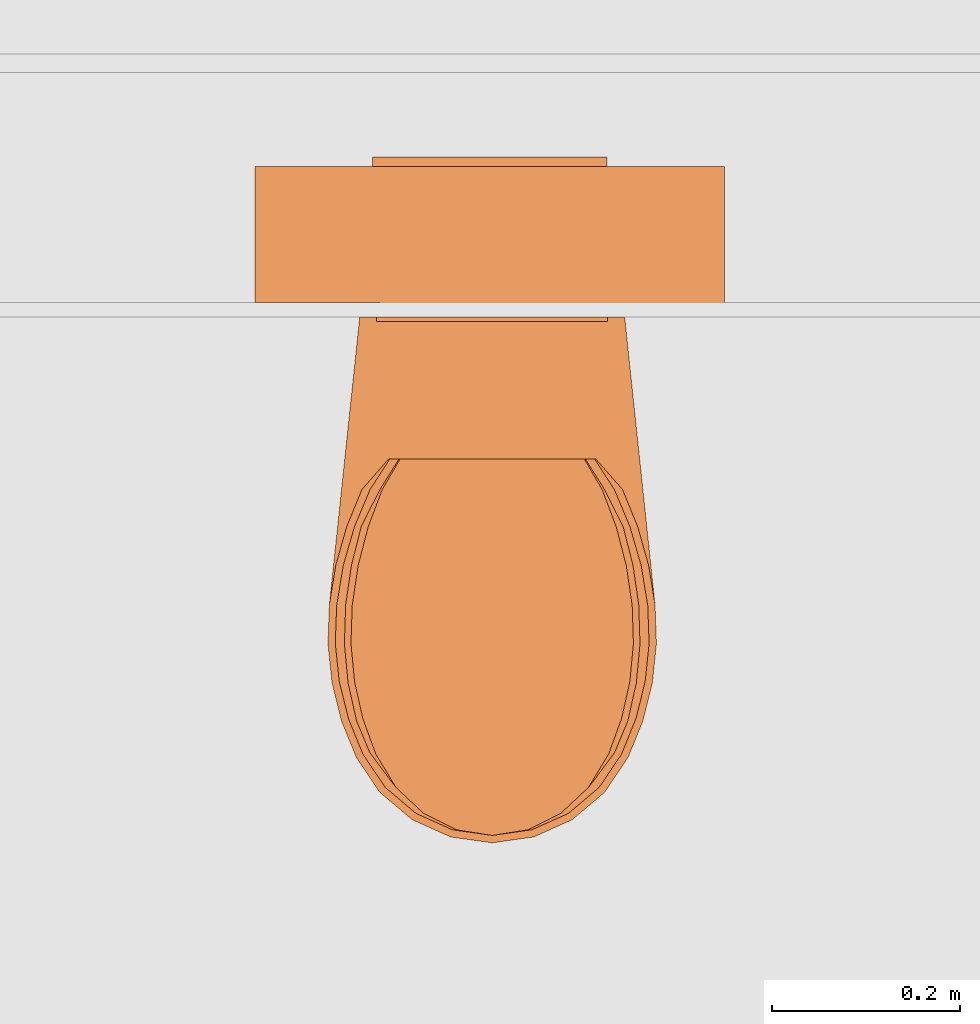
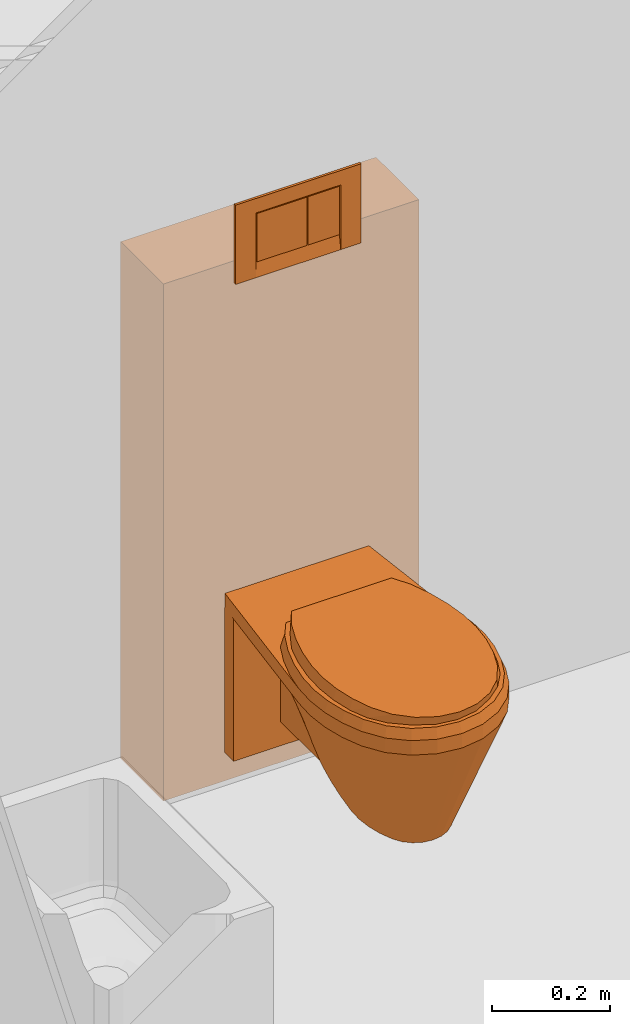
# One storey, part 112 of 167: 2 proxies.
"""IFC2X3 building model written with IfcOpenShell, lengths in millimetres."""

from ifc_helpers import new_model, entity, si_unit, converted_unit, derived_unit, money_unit, direction, frame, origin_with_axes, place, context, subcontext, project, spatial, open_shell, faceted_brep, surface_model, source, transform, mapped, type_object, type_shapes, element, save


model = new_model("IFC2X3")

# Units and contexts
model_context = context("Model", 3, precision=0.01, world=origin_with_axes(), true_north=direction((0.0, 1.0)))
plan_context = context("Plan", 3, precision=0.01, world=origin_with_axes(), true_north=direction((0.0, 1.0)))
body_context = subcontext(model_context, "Body", "Model", "MODEL_VIEW")
ifc_project = project(units=[si_unit("LENGTHUNIT", "METRE", prefix="MILLI"), si_unit("AREAUNIT", "SQUARE_METRE"), si_unit("VOLUMEUNIT", "CUBIC_METRE"), converted_unit("PLANEANGLEUNIT", "DEGREE", entity("IfcPlaneAngleMeasure", 0.0174532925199), si_unit("PLANEANGLEUNIT", "RADIAN"), dimensions=[0, 0, 0, 0, 0, 0, 0]), si_unit("SOLIDANGLEUNIT", "STERADIAN"), money_unit("EUR"), converted_unit("TIMEUNIT", "Year", entity("IfcTimeMeasure", 31556926.0), si_unit("TIMEUNIT", "SECOND"), dimensions=[0, 0, 1, 0, 0, 0, 0]), si_unit("MASSUNIT", "GRAM", prefix="KILO"), si_unit("THERMODYNAMICTEMPERATUREUNIT", "DEGREE_CELSIUS"), si_unit("LUMINOUSINTENSITYUNIT", "LUMEN"), si_unit("ENERGYUNIT", "JOULE", prefix="MEGA"), derived_unit("THERMALCONDUCTANCEUNIT", [(si_unit("POWERUNIT", "WATT"), 1), (si_unit("LENGTHUNIT", "METRE"), -1), (si_unit("THERMODYNAMICTEMPERATUREUNIT", "KELVIN"), -1)]), derived_unit("SPECIFICHEATCAPACITYUNIT", [(si_unit("ENERGYUNIT", "JOULE"), 1), (si_unit("MASSUNIT", "GRAM", prefix="KILO"), -1), (si_unit("THERMODYNAMICTEMPERATUREUNIT", "KELVIN"), -1)]), derived_unit("MASSDENSITYUNIT", [(si_unit("MASSUNIT", "GRAM", prefix="KILO"), 1), (si_unit("VOLUMEUNIT", "CUBIC_METRE"), -1)])], contexts=[model_context, plan_context])

# Site, building, storey
site_placement = place(None, origin_with_axes())
site = spatial("IfcSite", under=ifc_project, at=site_placement, Name="Site", CompositionType="ELEMENT")
building_placement = place(site_placement, origin_with_axes())
building = spatial("IfcBuilding", under=site, at=building_placement, Name="Naam gebouw", CompositionType="ELEMENT")
storey_placement = place(building_placement, origin_with_axes())
storey = spatial("IfcBuildingStorey", under=building, at=storey_placement, Name="Begane grond", CompositionType="ELEMENT", Elevation=0.0)

# Proxies
building_element_proxy_type_1 = type_object("IfcBuildingElementProxyType", Name="Toilet 24", PredefinedType="NOTDEFINED")
shared_shape_1 = source(origin_with_axes(), body_context, "Body", "SurfaceModel", [
    faceted_brep([(141.028331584, -29.3186537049, 70.0), (-141.028331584, -29.3186537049, 70.0), (-141.028331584, 0.494905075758, 70.0), (141.028331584, 0.494905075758, 70.0), (141.028331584, -29.3186537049, 370.0), (-141.028331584, -29.3186537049, 370.0), (-141.028331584, 0.494905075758, 370.0), (141.028331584, 0.494905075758, 370.0)], [[[0, 1, 2, 3]], [[1, 0, 4, 5]], [[2, 1, 5, 6]], [[3, 2, 6, 7]], [[0, 3, 7, 4]], [[5, 4, 7, 6]]]),
    faceted_brep([(0.0, -70.8916738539, 370.0), (29.2232249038, -74.3401088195, 370.0), (48.9681706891, -81.5929972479, 370.0), (48.9681706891, -29.3186537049, 370.0), (-48.9681706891, -29.3186537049, 370.0), (-48.9681706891, -81.5929972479, 370.0), (-29.2232249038, -74.3401088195, 370.0), (13.7012941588, -104.950683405, 120.0), (48.9681706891, -91.4215326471, 305.928931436), (25.9903462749, -111.50270984, 120.0), (48.9681706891, -132.92940311, 150.834999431), (48.9681706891, -162.865413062, 120.0), (48.9681706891, -29.3186537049, 120.0), (48.9681706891, -98.3265451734, 277.009109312), (48.9681706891, -115.60239829, 192.796015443), (48.9681706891, -128.161443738, 166.474594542), (-48.9681706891, -29.3186537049, 120.0), (-48.9681706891, -88.2509938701, 324.161469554), (-48.9681706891, -162.865413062, 120.0), (-48.9681706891, -136.95889879, 141.313409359), (-48.9681706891, -132.92940311, 150.834999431), (-48.9681706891, -121.830119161, 170.496419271), (-48.9681706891, -115.60239829, 192.796015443), (-48.9681706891, -107.087637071, 223.462569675), (-48.9681706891, -91.4215326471, 305.928931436), (-13.7012941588, -104.950683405, 120.0), (0.0, -102.688828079, 120.0), (35.5988807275, -121.669133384, 120.0), (41.5367611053, -134.401510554, 120.0), (-41.5367611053, -134.401510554, 120.0), (-25.9903462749, -111.50270984, 120.0), (-35.5988807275, -121.669133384, 120.0)], [[[0, 1, 2, 3, 4, 5, 6]], [[1, 0, 7]], [[8, 2, 1, 9]], [[10, 11, 12, 3, 2, 8, 13, 14, 15]], [[3, 12, 16, 4]], [[17, 5, 4, 16, 18, 19, 20, 21, 22, 23, 24]], [[6, 5, 17, 25]], [[0, 6, 26]], [[26, 7, 0]], [[7, 9, 1]], [[13, 8, 9, 27]], [[11, 10, 28]], [[29, 18, 16, 12, 11, 28, 27, 9, 7, 26, 25, 30, 31]], [[14, 13, 27]], [[15, 14, 27, 28]], [[10, 15, 28]], [[18, 29, 19]], [[20, 19, 29]], [[29, 31, 21, 20]], [[22, 21, 31]], [[31, 30, 23, 22]], [[24, 23, 30]], [[30, 25, 17, 24]], [[25, 26, 6]]]),
    surface_model("IfcShellBasedSurfaceModel", [(17.6912207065, -459.020482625, 120.0), (34.0279818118, -451.688334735, 120.0), (85.1820916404, -535.368037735, 370.0), (0.0, -461.527802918, 120.0), (-17.6912207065, -459.020482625, 120.0), (-34.0279818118, -451.688334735, 120.0), (-47.758656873, -440.093841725, 120.0), (-57.8323889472, -425.125447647, 120.0), (-68.2302903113, -399.418209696, 120.0), (-74.9438265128, -372.478677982, 120.0), (-77.8388247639, -344.846477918, 120.0), (-76.8575026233, -317.0761417, 120.0), (-70.9734872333, -270.86512559, 120.0), (-63.1150752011, -224.958207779, 120.0), (-53.2959776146, -179.441847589, 120.0), (-41.5367611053, -134.401510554, 120.0), (-35.5988807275, -121.669133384, 120.0), (-25.9903462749, -111.50270984, 120.0), (-13.7012941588, -104.950683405, 120.0), (0.0, -102.688828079, 120.0), (13.7012941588, -104.950683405, 120.0), (25.9903462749, -111.50270984, 120.0), (35.5988807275, -121.669133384, 120.0), (41.5367611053, -134.401510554, 120.0), (53.2959776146, -179.441847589, 120.0), (63.1150752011, -224.958207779, 120.0), (70.9734872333, -270.86512559, 120.0), (76.8575026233, -317.0761417, 120.0), (77.8388247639, -344.845484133, 120.0), (74.9438265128, -372.478677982, 120.0), (68.2302903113, -399.418209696, 120.0), (57.8323889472, -425.125447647, 120.0), (47.758656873, -440.093841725, 120.0), (119.554809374, -506.343544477, 370.0), (44.2868135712, -553.722258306, 370.0), (0.0, -560.0, 370.0), (-44.2868135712, -553.722258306, 370.0), (-85.1820916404, -535.368037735, 370.0), (-119.554809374, -506.343544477, 370.0), (-144.773417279, -468.871876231, 370.0), (-160.389366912, -430.260336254, 370.0), (-170.473871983, -389.797374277, 370.0), (-174.82224554, -348.294912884, 370.0), (-173.347324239, -306.584750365, 370.0), (-164.811192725, -257.295981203, 370.0), (-149.839664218, -209.61416286, 370.0), (-128.705001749, -164.398919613, 370.0), (-101.788177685, -122.466149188, 370.0), (-81.512416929, -100.834424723, 370.0), (-56.8863238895, -84.5015634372, 370.0), (-29.2232249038, -74.3401088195, 370.0), (0.0, -70.8916738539, 370.0), (29.2232249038, -74.3401088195, 370.0), (56.8863238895, -84.5015634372, 370.0), (81.512416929, -100.834424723, 370.0), (101.788177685, -122.466149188, 370.0), (128.705001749, -164.398919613, 370.0), (149.839664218, -209.61416286, 370.0), (164.811192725, -257.296974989, 370.0), (173.347324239, -306.584750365, 370.0), (174.82224554, -348.294912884, 370.0), (170.473871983, -389.797374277, 370.0), (160.390346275, -430.260336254, 370.0), (144.773417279, -468.871876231, 370.0)], [open_shell([[[0, 1, 2]], [[0, 3, 4, 5, 6, 7, 8, 9, 10, 11, 12, 13, 14, 15, 16, 17, 18, 19, 20, 21, 22, 23, 24, 25, 26, 27, 28, 29, 30, 31, 32, 1]], [[1, 33, 2]], [[0, 2, 34]], [[3, 0, 34]], [[4, 3, 35]], [[5, 4, 36]], [[6, 5, 37]], [[7, 6, 38]], [[8, 7, 39]], [[9, 8, 40]], [[10, 9, 41]], [[11, 10, 42]], [[12, 11, 43]], [[13, 12, 44]], [[14, 13, 45]], [[15, 14, 46]], [[16, 15, 47]], [[17, 16, 48]], [[18, 17, 49]], [[19, 18, 50]], [[20, 19, 51]], [[21, 20, 52]], [[22, 21, 53]], [[23, 22, 54]], [[24, 23, 55]], [[25, 24, 56]], [[26, 25, 57]], [[27, 26, 58]], [[28, 27, 59]], [[29, 28, 60]], [[30, 29, 61]], [[31, 30, 62]], [[32, 31, 63]], [[1, 32, 33]], [[3, 34, 35]], [[4, 35, 36]], [[5, 36, 37]], [[6, 37, 38]], [[7, 38, 39]], [[8, 39, 40]], [[9, 40, 41]], [[10, 41, 42]], [[11, 42, 43]], [[12, 43, 44]], [[13, 44, 45]], [[14, 45, 46]], [[15, 46, 47]], [[16, 47, 48]], [[17, 48, 49]], [[18, 49, 50]], [[19, 50, 51]], [[20, 51, 52]], [[21, 52, 53]], [[22, 53, 54]], [[23, 54, 55]], [[24, 55, 56]], [[25, 56, 57]], [[26, 57, 58]], [[27, 58, 59]], [[28, 59, 60]], [[29, 60, 61]], [[30, 61, 62]], [[31, 62, 63]], [[32, 63, 33]]])]),
    faceted_brep([(-173.347324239, -306.584750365, 370.0), (-174.82224554, -348.294912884, 370.0), (-174.82224554, -348.294912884, 400.0), (-173.347324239, -306.584750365, 400.0), (-140.973487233, 0.0, 370.0), (140.97544596, 0.0, 370.0), (173.347324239, -306.584750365, 370.0), (174.82224554, -348.294912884, 370.0), (170.473871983, -389.797374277, 370.0), (160.390346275, -430.260336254, 370.0), (144.773417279, -468.871876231, 370.0), (119.554809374, -506.343544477, 370.0), (85.1820916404, -535.368037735, 370.0), (44.2868135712, -553.722258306, 370.0), (0.0, -560.0, 370.0), (-44.2868135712, -553.722258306, 370.0), (-85.1820916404, -535.368037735, 370.0), (-119.554809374, -506.343544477, 370.0), (-144.773417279, -468.871876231, 370.0), (-160.389366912, -430.260336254, 370.0), (-170.473871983, -389.797374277, 370.0), (144.502133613, -309.721136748, 370.0), (129.388597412, -258.283803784, 370.0), (97.1352221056, -215.741842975, 370.0), (52.0130115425, -187.731010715, 370.0), (0.0, -177.963095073, 370.0), (-52.0130115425, -187.731010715, 370.0), (-97.1352221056, -215.741842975, 370.0), (-129.388597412, -258.283803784, 370.0), (-144.502133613, -309.721136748, 370.0), (-145.829171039, -347.26336375, 370.0), (-141.914655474, -384.619752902, 370.0), (-132.838894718, -421.039996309, 370.0), (-118.78209164, -455.793661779, 370.0), (-98.0920601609, -486.538397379, 370.0), (-69.8903112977, -510.352474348, 370.0), (-36.3363413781, -525.411302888, 370.0), (0.0, -530.56209206, 370.0), (36.3363413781, -525.411302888, 370.0), (69.8903112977, -510.352474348, 370.0), (98.0920601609, -486.538397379, 370.0), (118.78209164, -455.793661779, 370.0), (132.838894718, -421.039996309, 370.0), (141.914655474, -384.619752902, 370.0), (145.829171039, -347.26336375, 370.0), (-170.473871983, -389.797374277, 400.0), (-160.389366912, -430.260336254, 400.0), (-144.773417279, -468.871876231, 400.0), (-119.554809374, -506.343544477, 400.0), (-85.1820916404, -535.368037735, 400.0), (-44.2868135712, -553.722258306, 400.0), (0.0, -560.0, 400.0), (44.2868135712, -553.722258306, 400.0), (85.1820916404, -535.368037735, 400.0), (119.554809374, -506.343544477, 400.0), (144.773417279, -468.871876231, 400.0), (160.390346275, -430.260336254, 400.0), (170.473871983, -389.797374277, 400.0), (174.82224554, -348.294912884, 400.0), (173.347324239, -306.584750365, 400.0), (140.97544596, 0.0, 400.0), (-140.973487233, 0.0, 400.0), (144.502133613, -309.721136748, 400.0), (145.829171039, -347.26336375, 400.0), (141.914655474, -384.619752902, 400.0), (132.838894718, -421.039996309, 400.0), (118.78209164, -455.793661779, 400.0), (98.0920601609, -486.538397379, 400.0), (69.8903112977, -510.352474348, 400.0), (36.3363413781, -525.411302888, 400.0), (0.0, -530.56209206, 400.0), (-36.3363413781, -525.411302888, 400.0), (-69.8903112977, -510.352474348, 400.0), (-98.0920601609, -486.538397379, 400.0), (-118.78209164, -455.793661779, 400.0), (-132.838894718, -421.039996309, 400.0), (-141.914655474, -384.619752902, 400.0), (-145.829171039, -347.26336375, 400.0), (-144.502133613, -309.721136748, 400.0), (-129.388597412, -258.283803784, 400.0), (-97.1352221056, -215.741842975, 400.0), (-52.0130115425, -187.731010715, 400.0), (0.0, -177.963095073, 400.0), (52.0130115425, -187.731010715, 400.0), (97.1352221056, -215.741842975, 400.0), (129.388597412, -258.283803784, 400.0)], [[[0, 1, 2, 3]], [[0, 4, 5, 6, 7, 8, 9, 10, 11, 12, 13, 14, 15, 16, 17, 18, 19, 20, 1], [21, 22, 23, 24, 25, 26, 27, 28, 29, 30, 31, 32, 33, 34, 35, 36, 37, 38, 39, 40, 41, 42, 43, 44]], [[1, 20, 45, 2]], [[3, 2, 45, 46, 47, 48, 49, 50, 51, 52, 53, 54, 55, 56, 57, 58, 59, 60, 61], [62, 63, 64, 65, 66, 67, 68, 69, 70, 71, 72, 73, 74, 75, 76, 77, 78, 79, 80, 81, 82, 83, 84, 85]], [[4, 0, 3, 61]], [[5, 4, 61, 60]], [[6, 5, 60, 59]], [[7, 6, 59, 58]], [[8, 7, 58, 57]], [[9, 8, 57, 56]], [[10, 9, 56, 55]], [[11, 10, 55, 54]], [[12, 11, 54, 53]], [[13, 12, 53, 52]], [[14, 13, 52, 51]], [[15, 14, 51, 50]], [[16, 15, 50, 49]], [[17, 16, 49, 48]], [[18, 17, 48, 47]], [[19, 18, 47, 46]], [[20, 19, 46, 45]], [[22, 21, 62, 85]], [[23, 22, 85, 84]], [[24, 23, 84, 83]], [[25, 24, 83, 82]], [[26, 25, 82, 81]], [[27, 26, 81, 80]], [[28, 27, 80, 79]], [[29, 28, 79, 78]], [[30, 29, 78, 77]], [[31, 30, 77, 76]], [[32, 31, 76, 75]], [[33, 32, 75, 74]], [[34, 33, 74, 73]], [[35, 34, 73, 72]], [[36, 35, 72, 71]], [[37, 36, 71, 70]], [[38, 37, 70, 69]], [[39, 38, 69, 68]], [[40, 39, 68, 67]], [[41, 40, 67, 66]], [[42, 41, 66, 65]], [[43, 42, 65, 64]], [[44, 43, 64, 63]], [[21, 44, 63, 62]]]),
    surface_model("IfcShellBasedSurfaceModel", [(16.8066596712, -465.732925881, 220.0), (32.3265827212, -460.013850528, 220.0), (80.9229870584, -525.284018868, 370.0), (0.0, -467.68863571, 220.0), (-16.8066596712, -465.732925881, 220.0), (-32.3265827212, -460.013850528, 220.0), (-45.3707240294, -450.97014598, 220.0), (-54.9407694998, -439.294798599, 220.0), (-64.8187757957, -419.243152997, 220.0), (-71.1966351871, -398.23031826, 220.0), (-73.9468835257, -376.67720221, 220.0), (-73.0146274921, -355.01633996, 220.0), (-67.4248128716, -318.971747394, 220.0), (-59.9593214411, -283.164351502, 220.0), (-50.6311787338, -247.661590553, 220.0), (-39.45992305, -212.530127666, 220.0), (-33.8189366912, -202.598873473, 220.0), (-24.6908289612, -194.669063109, 220.0), (-13.0162294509, -189.55848249, 220.0), (0.0, -187.794235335, 220.0), (13.0162294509, -189.55848249, 220.0), (24.6908289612, -194.669063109, 220.0), (33.8189366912, -202.598873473, 220.0), (39.45992305, -212.530127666, 220.0), (50.6311787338, -247.661590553, 220.0), (59.9593214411, -283.164351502, 220.0), (67.4248128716, -318.971747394, 220.0), (73.0146274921, -355.01633996, 220.0), (73.9468835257, -376.676427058, 220.0), (71.1966351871, -398.23031826, 220.0), (64.8187757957, -419.243152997, 220.0), (54.9407694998, -439.294798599, 220.0), (45.3707240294, -450.97014598, 220.0), (113.577068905, -502.644914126, 370.0), (42.0724728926, -539.600310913, 370.0), (0.0, -544.496949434, 370.0), (-42.0724728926, -539.600310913, 370.0), (-80.9229870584, -525.284018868, 370.0), (-113.577068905, -502.644914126, 370.0), (-137.534746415, -473.417012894, 370.0), (-152.369898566, -443.300011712, 370.0), (-161.950178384, -411.73890137, 370.0), (-166.081133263, -379.366981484, 370.0), (-164.679958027, -346.833054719, 370.0), (-156.570633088, -308.387814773, 370.0), (-142.347681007, -271.195996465, 370.0), (-122.269751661, -235.928106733, 370.0), (-96.6987688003, -203.220545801, 370.0), (-77.4367960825, -186.347800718, 370.0), (-54.042007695, -173.608168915, 370.0), (-27.7620636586, -165.682234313, 370.0), (0.0, -162.99245504, 370.0), (27.7620636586, -165.682234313, 370.0), (54.042007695, -173.608168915, 370.0), (77.4367960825, -186.347800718, 370.0), (96.6987688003, -203.220545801, 370.0), (122.269751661, -235.928106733, 370.0), (142.347681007, -271.195996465, 370.0), (156.570633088, -308.388589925, 370.0), (164.679958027, -346.833054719, 370.0), (166.081133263, -379.366981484, 370.0), (161.950178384, -411.73890137, 370.0), (152.370828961, -443.300011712, 370.0), (137.534746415, -473.417012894, 370.0)], [open_shell([[[0, 1, 2]], [[0, 3, 4, 5, 6, 7, 8, 9, 10, 11, 12, 13, 14, 15, 16, 17, 18, 19, 20, 21, 22, 23, 24, 25, 26, 27, 28, 29, 30, 31, 32, 1]], [[1, 33, 2]], [[0, 2, 34]], [[3, 0, 34]], [[4, 3, 35]], [[5, 4, 36]], [[6, 5, 37]], [[7, 6, 38]], [[8, 7, 39]], [[9, 8, 40]], [[10, 9, 41]], [[11, 10, 42]], [[12, 11, 43]], [[13, 12, 44]], [[14, 13, 45]], [[15, 14, 46]], [[16, 15, 47]], [[17, 16, 48]], [[18, 17, 49]], [[19, 18, 50]], [[20, 19, 51]], [[21, 20, 52]], [[22, 21, 53]], [[23, 22, 54]], [[24, 23, 55]], [[25, 24, 56]], [[26, 25, 57]], [[27, 26, 58]], [[28, 27, 59]], [[29, 28, 60]], [[30, 29, 61]], [[31, 30, 62]], [[32, 31, 63]], [[1, 32, 33]], [[3, 34, 35]], [[4, 35, 36]], [[5, 36, 37]], [[6, 37, 38]], [[7, 38, 39]], [[8, 39, 40]], [[9, 40, 41]], [[10, 41, 42]], [[11, 42, 43]], [[12, 43, 44]], [[13, 44, 45]], [[14, 45, 46]], [[15, 46, 47]], [[16, 47, 48]], [[17, 48, 49]], [[18, 49, 50]], [[19, 50, 51]], [[20, 51, 52]], [[21, 52, 53]], [[22, 53, 54]], [[23, 54, 55]], [[24, 55, 56]], [[25, 56, 57]], [[26, 57, 58]], [[27, 58, 59]], [[28, 59, 60]], [[29, 60, 61]], [[30, 61, 62]], [[31, 62, 63]], [[32, 63, 33]]])]),
    faceted_brep([(0.0, -560.0, 400.0), (-44.2868135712, -553.722258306, 400.0), (-85.1820916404, -535.368037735, 400.0), (-119.554809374, -506.343544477, 400.0), (-144.773417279, -468.871876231, 400.0), (-160.389366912, -430.260336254, 400.0), (-170.473871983, -389.797374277, 400.0), (-174.82224554, -348.294912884, 400.0), (-173.347324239, -306.584750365, 400.0), (-166.466316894, -264.426390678, 400.0), (-154.871633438, -223.344300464, 400.0), (-138.715075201, -183.881086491, 400.0), (-110.192657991, -151.316352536, 400.0), (110.192657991, -151.316352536, 400.0), (138.715075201, -183.881086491, 400.0), (154.871633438, -223.344300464, 400.0), (166.466316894, -264.426390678, 400.0), (173.347324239, -306.584750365, 400.0), (174.82224554, -348.294912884, 400.0), (170.473871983, -389.797374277, 400.0), (160.390346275, -430.260336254, 400.0), (144.773417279, -468.871876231, 400.0), (119.554809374, -506.343544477, 400.0), (85.1820916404, -535.368037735, 400.0), (44.2868135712, -553.722258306, 400.0), (87.0768965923, -411.996361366, 400.0), (94.5108554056, -382.276303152, 400.0), (97.7160649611, -351.79832554, 400.0), (96.6142529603, -320.742930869, 400.0), (90.9929409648, -286.794273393, 400.0), (81.3288631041, -253.338107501, 400.0), (68.7544855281, -223.466323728, 400.0), (-68.7541287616, -223.466323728, 400.0), (-81.3289539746, -253.338422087, 400.0), (-90.9929409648, -286.794273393, 400.0), (-96.6142529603, -320.742930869, 400.0), (-97.7160649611, -351.79832554, 400.0), (-94.5108554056, -382.276303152, 400.0), (-87.0768965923, -411.996361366, 400.0), (-76.4888004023, -438.077570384, 400.0), (-62.0685687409, -459.426212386, 400.0), (-44.2610983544, -474.406756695, 400.0), (-23.0257994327, -483.902301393, 400.0), (0.0, -487.154466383, 400.0), (23.0257994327, -483.902301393, 400.0), (44.2610983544, -474.406756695, 400.0), (62.0685687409, -459.426212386, 400.0), (76.4888004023, -438.077570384, 400.0), (0.0, -552.094437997, 420.0), (-42.1518013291, -546.118807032, 420.0), (-81.0756208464, -528.649055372, 420.0), (-113.791255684, -501.024805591, 420.0), (-137.792514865, -465.359839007, 420.0), (-152.99027632, -427.78481709, 420.0), (-162.803497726, -388.407068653, 420.0), (-167.035327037, -348.017646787, 420.0), (-165.600559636, -307.427480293, 420.0), (-158.59027632, -264.933221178, 420.0), (-146.688072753, -223.575852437, 420.0), (-130.061420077, -183.931769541, 420.0), (-108.940468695, -151.316352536, 420.0), (108.940468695, -151.316352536, 420.0), (130.061420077, -183.930775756, 420.0), (146.688072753, -223.575852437, 420.0), (158.59027632, -264.933221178, 420.0), (165.600559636, -307.427480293, 420.0), (167.035327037, -348.017646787, 420.0), (162.803497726, -388.407068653, 420.0), (152.99027632, -427.78481709, 420.0), (137.792514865, -465.359839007, 420.0), (113.791255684, -501.024805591, 420.0), (81.0756208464, -528.649055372, 420.0), (42.1518013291, -546.118807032, 420.0), (87.0768965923, -411.996361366, 420.0), (94.5108554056, -382.276303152, 420.0), (97.7160649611, -351.79832554, 420.0), (96.6142529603, -320.742930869, 420.0), (90.9929409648, -286.794273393, 420.0), (81.3288631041, -253.338107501, 420.0), (68.7544855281, -223.466323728, 420.0), (-68.7541287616, -223.466323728, 420.0), (-81.3289539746, -253.338422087, 420.0), (-90.9929409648, -286.794273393, 420.0), (-96.6142529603, -320.742930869, 420.0), (-97.7160649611, -351.79832554, 420.0), (-94.5108554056, -382.276303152, 420.0), (-87.0768965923, -411.996361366, 420.0), (-76.4888004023, -438.077570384, 420.0), (-62.0685687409, -459.426212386, 420.0), (-44.2610983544, -474.406756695, 420.0), (-23.0257994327, -483.902301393, 420.0), (0.0, -487.154466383, 420.0), (23.0257994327, -483.902301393, 420.0), (44.2610983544, -474.406756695, 420.0), (62.0685687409, -459.426212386, 420.0), (76.4888004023, -438.077570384, 420.0)], [[[0, 1, 2, 3, 4, 5, 6, 7, 8, 9, 10, 11, 12, 13, 14, 15, 16, 17, 18, 19, 20, 21, 22, 23, 24], [25, 26, 27, 28, 29, 30, 31, 32, 33, 34, 35, 36, 37, 38, 39, 40, 41, 42, 43, 44, 45, 46, 47]], [[1, 0, 48]], [[2, 1, 49]], [[3, 2, 50]], [[4, 3, 51]], [[5, 4, 52]], [[6, 5, 53]], [[6, 54, 55, 7]], [[8, 7, 55]], [[9, 8, 56]], [[10, 9, 57]], [[11, 10, 58]], [[12, 11, 59]], [[12, 60, 61, 13]], [[14, 13, 61]], [[15, 14, 62]], [[16, 15, 63]], [[17, 16, 64]], [[18, 17, 65]], [[18, 66, 67, 19]], [[20, 19, 67]], [[20, 68, 69, 21]], [[22, 21, 69]], [[23, 22, 70]], [[24, 23, 71]], [[0, 24, 72]], [[73, 74, 26, 25]], [[74, 75, 27, 26]], [[75, 76, 28, 27]], [[76, 77, 29, 28]], [[77, 78, 30, 29]], [[78, 79, 31, 30]], [[79, 80, 32, 31]], [[80, 81, 33, 32]], [[81, 82, 34, 33]], [[82, 83, 35, 34]], [[83, 84, 36, 35]], [[84, 85, 37, 36]], [[85, 86, 38, 37]], [[86, 87, 39, 38]], [[87, 88, 40, 39]], [[88, 89, 41, 40]], [[89, 90, 42, 41]], [[90, 91, 43, 42]], [[91, 92, 44, 43]], [[92, 93, 45, 44]], [[93, 94, 46, 45]], [[94, 95, 47, 46]], [[95, 73, 25, 47]], [[0, 72, 48]], [[1, 48, 49]], [[2, 49, 50]], [[3, 50, 51]], [[4, 51, 52]], [[5, 52, 53]], [[6, 53, 54]], [[54, 53, 52, 51, 50, 49, 48, 72, 71, 70, 69, 68, 67, 66, 65, 64, 63, 62, 61, 60, 59, 58, 57, 56, 55], [77, 76, 75, 74, 73, 95, 94, 93, 92, 91, 90, 89, 88, 87, 86, 85, 84, 83, 82, 81, 80, 79, 78]], [[8, 55, 56]], [[9, 56, 57]], [[10, 57, 58]], [[11, 58, 59]], [[12, 59, 60]], [[14, 61, 62]], [[15, 62, 63]], [[16, 63, 64]], [[17, 64, 65]], [[18, 65, 66]], [[20, 67, 68]], [[22, 69, 70]], [[23, 70, 71]], [[24, 71, 72]]]),
    faceted_brep([(-107.599328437, -494.418120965, 420.0), (-76.6638824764, -519.467473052, 420.0), (-72.9680587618, -528.649055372, 440.0), (-130.296075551, -463.902949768, 420.0), (-144.35043022, -430.260336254, 420.0), (-153.426484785, -389.797374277, 420.0), (-157.340020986, -348.294912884, 420.0), (-156.012591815, -306.584750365, 420.0), (-149.819685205, -264.426390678, 420.0), (-139.384470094, -223.344300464, 420.0), (-119.555005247, -183.881086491, 420.0), (-99.1733921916, -151.316352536, 420.0), (99.1733921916, -151.316352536, 420.0), (119.555005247, -183.881086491, 420.0), (139.384470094, -223.344300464, 420.0), (149.819685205, -264.426390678, 420.0), (156.012591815, -306.584750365, 420.0), (157.340020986, -348.294912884, 420.0), (153.426484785, -389.797374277, 420.0), (144.351311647, -430.260336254, 420.0), (130.296075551, -463.902949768, 420.0), (107.599328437, -494.418120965, 420.0), (76.6638824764, -519.467473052, 420.0), (39.8581322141, -538.815478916, 420.0), (0.0, -545.09322061, 420.0), (-39.8581322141, -538.815478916, 420.0), (-37.9366211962, -546.118807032, 440.0), (-102.412130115, -501.024805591, 440.0), (-124.013263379, -465.359839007, 440.0), (-137.691248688, -427.78481709, 440.0), (-146.523147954, -388.407068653, 440.0), (-150.331794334, -348.017646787, 440.0), (-149.040503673, -307.427480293, 440.0), (-142.731248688, -264.933221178, 440.0), (-132.019265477, -223.575852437, 440.0), (-117.055278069, -183.931769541, 440.0), (-98.0464218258, -151.316352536, 440.0), (98.0464218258, -151.316352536, 440.0), (117.055278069, -183.930775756, 440.0), (132.019265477, -223.575852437, 440.0), (142.731248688, -264.933221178, 440.0), (149.040503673, -307.427480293, 440.0), (150.331794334, -348.017646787, 440.0), (146.523147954, -388.407068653, 440.0), (137.691248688, -427.78481709, 440.0), (124.013263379, -465.359839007, 440.0), (102.412130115, -501.024805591, 440.0), (72.9680587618, -528.649055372, 440.0), (37.9366211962, -546.118807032, 440.0), (0.0, -552.094437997, 440.0)], [[[0, 1, 2]], [[0, 3, 4, 5, 6, 7, 8, 9, 10, 11, 12, 13, 14, 15, 16, 17, 18, 19, 20, 21, 22, 23, 24, 25, 1]], [[1, 26, 2]], [[0, 2, 27]], [[3, 0, 27]], [[4, 3, 28]], [[5, 4, 29]], [[6, 5, 30, 31]], [[7, 6, 31]], [[8, 7, 32]], [[9, 8, 33]], [[10, 9, 34]], [[11, 10, 35]], [[12, 11, 36, 37]], [[13, 12, 37]], [[14, 13, 38]], [[15, 14, 39]], [[16, 15, 40]], [[17, 16, 41]], [[18, 17, 42, 43]], [[19, 18, 43]], [[20, 19, 44]], [[21, 20, 45]], [[22, 21, 46]], [[23, 22, 47]], [[24, 23, 48]], [[25, 24, 49]], [[1, 25, 26]], [[27, 2, 26, 49, 48, 47, 46, 45, 44, 43, 42, 41, 40, 39, 38, 37, 36, 35, 34, 33, 32, 31, 30, 29, 28]], [[3, 27, 28]], [[4, 28, 29]], [[5, 29, 30]], [[7, 31, 32]], [[8, 32, 33]], [[9, 33, 34]], [[10, 34, 35]], [[11, 35, 36]], [[13, 37, 38]], [[14, 38, 39]], [[15, 39, 40]], [[16, 40, 41]], [[17, 41, 42]], [[19, 43, 44]], [[20, 44, 45]], [[21, 45, 46]], [[22, 46, 47]], [[23, 47, 48]], [[24, 48, 49]], [[25, 49, 26]]]),
    faceted_brep([(-83.0, 0.0, 1036.0), (-83.0, 0.0, 1170.0), (-83.0, -5.0, 1170.0), (-83.0, -5.0, 1036.0), (-123.0, 0.0, 1036.0), (-123.0, 0.0, 1200.0), (123.0, 0.0, 1200.0), (123.0, 0.0, 1036.0), (83.0, 0.0, 1036.0), (83.0, 0.0, 1170.0), (83.0, -5.0, 1170.0), (83.0, -5.0, 1036.0), (123.0, -5.0, 1036.0), (123.0, -5.0, 1200.0), (-123.0, -5.0, 1200.0), (-123.0, -5.0, 1036.0)], [[[0, 1, 2, 3]], [[0, 4, 5, 6, 7, 8, 9, 1]], [[1, 9, 10, 2]], [[3, 2, 10, 11, 12, 13, 14, 15]], [[4, 0, 3, 15]], [[5, 4, 15, 14]], [[6, 5, 14, 13]], [[7, 6, 13, 12]], [[8, 7, 12, 11]], [[9, 8, 11, 10]]]),
    faceted_brep([(83.0, 0.0, 1066.0), (-83.0, 0.0, 1066.0), (-83.0, -5.0, 1036.0), (83.0, -5.0, 1036.0), (83.0, 0.0, 1036.0), (-83.0, 0.0, 1036.0)], [[[0, 1, 2, 3]], [[1, 0, 4, 5]], [[1, 5, 2]], [[3, 2, 5, 4]], [[4, 0, 3]]]),
    faceted_brep([(-81.0, 0.0, 1068.0), (17.0, 0.0, 1068.0), (17.0, -5.0, 1068.0), (-81.0, -5.0, 1068.0), (-81.0, 0.0, 1168.0), (17.0, 0.0, 1168.0), (17.0, -5.0, 1168.0), (-81.0, -5.0, 1168.0)], [[[0, 1, 2, 3]], [[0, 4, 5, 1]], [[1, 5, 6, 2]], [[3, 2, 6, 7]], [[4, 0, 3, 7]], [[5, 4, 7, 6]]]),
    faceted_brep([(19.0, 0.0, 1168.0), (19.0, 0.0, 1068.0), (19.0, -5.0, 1068.0), (19.0, -5.0, 1168.0), (81.0, 0.0, 1168.0), (81.0, 0.0, 1068.0), (81.0, -5.0, 1068.0), (81.0, -5.0, 1168.0)], [[[0, 1, 2, 3]], [[0, 4, 5, 1]], [[1, 5, 6, 2]], [[3, 2, 6, 7]], [[4, 0, 3, 7]], [[5, 4, 7, 6]]]),
])
type_shapes(building_element_proxy_type_1, [shared_shape_1])
proxy_1_placement = place(storey_placement, frame((32173.1764118, 49220.000059, 0.0), z_axis=(0.0, 0.0, 1.0), x_axis=(1.0, 0.0, 0.0)))
element("IfcBuildingElementProxy", 1, at=proxy_1_placement, inside=storey, type_object=building_element_proxy_type_1, Name="__FU - 003", context=body_context, shape_type="MappedRepresentation", body=[
    mapped(shared_shape_1, transform((0.0, 0.0, 0.0))),
])
building_element_proxy_type_2 = type_object("IfcBuildingElementProxyType", Name="Inbouwreservoir 24 KM", PredefinedType="NOTDEFINED")
shared_shape_2 = source(origin_with_axes(), body_context, "Body", "SurfaceModel", [
    faceted_brep([(0.0, 0.0, 0.0), (500.0, 0.0, 0.0), (500.0, 0.0, 1070.0), (0.0, 0.0, 1070.0), (0.0, 145.00000711, 0.0), (500.0, 145.00000711, 0.0), (500.0, 145.00000711, 1070.0), (0.0, 145.00000711, 1070.0)], [[[0, 1, 2, 3]], [[0, 4, 5, 1]], [[1, 5, 6, 2]], [[3, 2, 6, 7]], [[4, 0, 3, 7]], [[5, 4, 7, 6]]]),
    surface_model("IfcShellBasedSurfaceModel", [(1.0, 0.0, 0.0), (499.0, 0.0, 0.0), (499.0, 145.00000711, 1070.0), (1.0, 145.00000711, 1070.0)], [open_shell([[[0, 1, 2, 3]]])]),
    surface_model("IfcShellBasedSurfaceModel", [(1.0, 0.0, 1070.0), (499.0, 0.0, 1070.0), (499.0, 145.00000711, 0.0), (1.0, 145.00000711, 0.0)], [open_shell([[[0, 1, 2, 3]]])]),
    faceted_brep([(375.0, -10.0, 820.0), (125.0, -10.0, 820.0), (125.0, 0.0, 820.0), (375.0, 0.0, 820.0), (375.0, -10.0, 980.0), (125.0, -10.0, 980.0), (125.0, 0.0, 980.0), (375.0, 0.0, 980.0)], [[[0, 1, 2, 3]], [[1, 0, 4, 5]], [[2, 1, 5, 6]], [[3, 2, 6, 7]], [[0, 3, 7, 4]], [[5, 4, 7, 6]]]),
    surface_model("IfcShellBasedSurfaceModel", [(325.0, 0.0, 850.0), (175.0, 0.0, 850.0), (175.0, 0.0, 950.0), (325.0, 0.0, 950.0)], [open_shell([[[0, 1, 2, 3]]])]),
    surface_model("IfcShellBasedSurfaceModel", [(175.0, -10.0, 820.0), (325.0, -10.0, 820.0), (325.0, -10.0, 855.0), (175.0, -10.0, 855.0)], [open_shell([[[0, 1, 2, 3]]])]),
    surface_model("IfcShellBasedSurfaceModel", [(175.0, -10.0, 855.0), (265.0, -10.0, 855.0), (265.0, -10.0, 945.0), (175.0, -10.0, 945.0)], [open_shell([[[0, 1, 2, 3]]])]),
    surface_model("IfcShellBasedSurfaceModel", [(265.0, -10.0, 855.0), (325.0, -10.0, 855.0), (325.0, -10.0, 945.0), (265.0, -10.0, 945.0)], [open_shell([[[0, 1, 2, 3]]])]),
])
type_shapes(building_element_proxy_type_2, [shared_shape_2])
proxy_2_placement = place(storey_placement, frame((32420.5300795, 49379.8434171, 0.0), z_axis=(0.0, 0.0, 1.0), x_axis=(-0.999999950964, 0.000313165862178, 0.0)))
element("IfcBuildingElementProxy", 2, at=proxy_2_placement, inside=storey, type_object=building_element_proxy_type_2, Name="__Object-x", context=body_context, shape_type="MappedRepresentation", body=[
    mapped(shared_shape_2, transform((0.0, 0.0, 0.0))),
])

save(model, "model.ifc")
